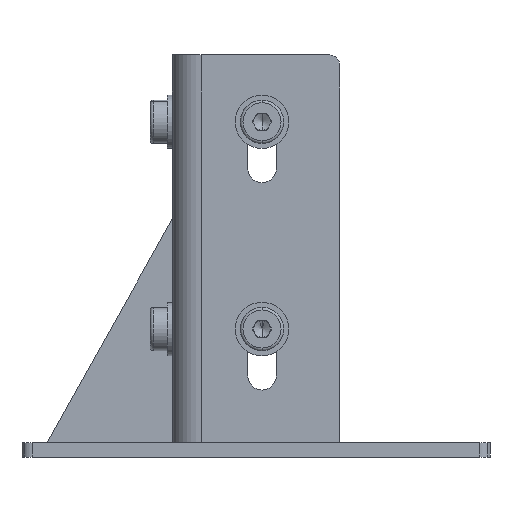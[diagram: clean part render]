
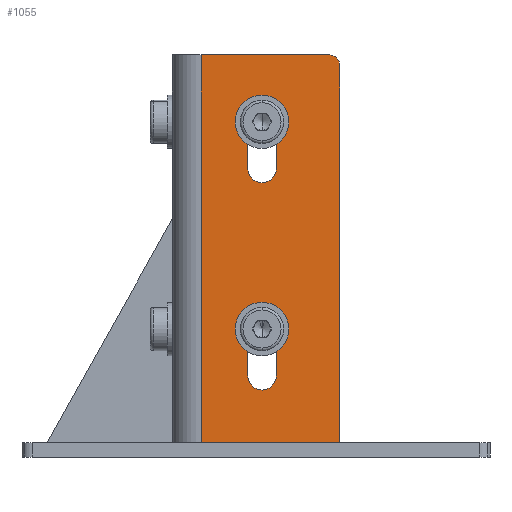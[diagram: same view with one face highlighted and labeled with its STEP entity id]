
A CAD part, left-side view. The second image highlights one B-rep face of the part: STEP entity #1055.
In plain terms, the highlighted planar face has unit normal (-1, 0, 0).
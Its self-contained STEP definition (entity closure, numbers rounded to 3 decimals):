
#308 = EDGE_LOOP ( 'NONE', ( #9153, #6191, #8170, #21987, #2086, #27385 ) ) ;
#385 = LINE ( 'NONE', #17801, #1971 ) ;
#949 = ORIENTED_EDGE ( 'NONE', *, *, #17578, .T. ) ;
#966 = CARTESIAN_POINT ( 'NONE',  ( 589.484, 846.109, 1260.658 ) ) ;
#1055 = ADVANCED_FACE ( 'NONE', ( #3813, #5658, #12045 ), #7954, .F. ) ;
#1060 = VERTEX_POINT ( 'NONE', #24959 ) ;
#1263 = VERTEX_POINT ( 'NONE', #19890 ) ;
#1562 = LINE ( 'NONE', #10212, #20453 ) ;
#1771 = AXIS2_PLACEMENT_3D ( 'NONE', #22392, #21977, #13587 ) ;
#1871 = EDGE_CURVE ( 'NONE', #12042, #18150, #9420, .T. ) ;
#1971 = VECTOR ( 'NONE', #15431, 1000. ) ;
#2086 = ORIENTED_EDGE ( 'NONE', *, *, #9305, .F. ) ;
#2169 = CARTESIAN_POINT ( 'NONE',  ( 589.484, 837.609, 1310.658 ) ) ;
#2970 = VERTEX_POINT ( 'NONE', #27917 ) ;
#3536 = DIRECTION ( 'NONE',  ( 0., 1., 0. ) ) ;
#3606 = LINE ( 'NONE', #8178, #5214 ) ;
#3764 = CARTESIAN_POINT ( 'NONE',  ( 589.484, 846.109, 1317.658 ) ) ;
#3813 = FACE_BOUND ( 'NONE', #10785, .T. ) ;
#3876 = DIRECTION ( 'NONE',  ( 1., 0., 0. ) ) ;
#3995 = EDGE_CURVE ( 'NONE', #1263, #21142, #23802, .T. ) ;
#4119 = VERTEX_POINT ( 'NONE', #9805 ) ;
#4256 = CARTESIAN_POINT ( 'NONE',  ( 589.484, 841.859, 1322.658 ) ) ;
#4599 = VECTOR ( 'NONE', #24718, 1000. ) ;
#4658 = ORIENTED_EDGE ( 'NONE', *, *, #3995, .T. ) ;
#4782 = CARTESIAN_POINT ( 'NONE',  ( 589.484, 846.109, 1336.658 ) ) ;
#4941 = CIRCLE ( 'NONE', #1771, 3. ) ;
#5158 = EDGE_LOOP ( 'NONE', ( #13187, #4658, #15487, #19720 ) ) ;
#5214 = VECTOR ( 'NONE', #17094, 1000. ) ;
#5658 = FACE_BOUND ( 'NONE', #5158, .T. ) ;
#5897 = DIRECTION ( 'NONE',  ( 0., -1., 0. ) ) ;
#5899 = VERTEX_POINT ( 'NONE', #20643 ) ;
#6031 = EDGE_CURVE ( 'NONE', #1060, #17397, #3606, .T. ) ;
#6191 = ORIENTED_EDGE ( 'NONE', *, *, #12634, .F. ) ;
#6731 = AXIS2_PLACEMENT_3D ( 'NONE', #21876, #23837, #17070 ) ;
#6899 = CARTESIAN_POINT ( 'NONE',  ( 589.484, 837.609, 1274.658 ) ) ;
#6957 = CARTESIAN_POINT ( 'NONE',  ( 589.484, 860.059, 1356.658 ) ) ;
#7290 = CARTESIAN_POINT ( 'NONE',  ( 589.484, 841.859, 1336.658 ) ) ;
#7474 = CARTESIAN_POINT ( 'NONE',  ( 589.484, 860.059, 1356.658 ) ) ;
#7954 = PLANE ( 'NONE',  #11771 ) ;
#8163 = CARTESIAN_POINT ( 'NONE',  ( 589.484, 841.859, 1260.658 ) ) ;
#8170 = ORIENTED_EDGE ( 'NONE', *, *, #8801, .T. ) ;
#8178 = CARTESIAN_POINT ( 'NONE',  ( 589.484, 869.786, 1240.658 ) ) ;
#8559 = VERTEX_POINT ( 'NONE', #4782 ) ;
#8801 = EDGE_CURVE ( 'NONE', #15522, #17397, #20348, .T. ) ;
#9153 = ORIENTED_EDGE ( 'NONE', *, *, #17274, .F. ) ;
#9305 = EDGE_CURVE ( 'NONE', #5899, #1060, #1562, .T. ) ;
#9420 = CIRCLE ( 'NONE', #6731, 4.25 ) ;
#9805 = CARTESIAN_POINT ( 'NONE',  ( 589.484, 819.538, 1355.779 ) ) ;
#9935 = AXIS2_PLACEMENT_3D ( 'NONE', #8163, #3876, #25152 ) ;
#10212 = CARTESIAN_POINT ( 'NONE',  ( 589.484, 818.659, 1356.658 ) ) ;
#10785 = EDGE_LOOP ( 'NONE', ( #16168, #949, #14729, #25509 ) ) ;
#10857 = VERTEX_POINT ( 'NONE', #25034 ) ;
#10868 = DIRECTION ( 'NONE',  ( 0., -0.707, 0.707 ) ) ;
#11771 = AXIS2_PLACEMENT_3D ( 'NONE', #14473, #23370, #3536 ) ;
#12042 = VERTEX_POINT ( 'NONE', #18119 ) ;
#12045 = FACE_OUTER_BOUND ( 'NONE', #308, .T. ) ;
#12505 = DIRECTION ( 'NONE',  ( 0., 0., -1. ) ) ;
#12626 = DIRECTION ( 'NONE',  ( 1., 0., 0. ) ) ;
#12634 = EDGE_CURVE ( 'NONE', #15522, #10857, #18391, .T. ) ;
#12652 = LINE ( 'NONE', #2169, #14881 ) ;
#13187 = ORIENTED_EDGE ( 'NONE', *, *, #14402, .T. ) ;
#13587 = DIRECTION ( 'NONE',  ( 0., -0.707, 0.707 ) ) ;
#14141 = CARTESIAN_POINT ( 'NONE',  ( 589.484, 837.609, 1279.658 ) ) ;
#14402 = EDGE_CURVE ( 'NONE', #17013, #1263, #12652, .T. ) ;
#14473 = CARTESIAN_POINT ( 'NONE',  ( 589.484, 844.223, 1298.658 ) ) ;
#14729 = ORIENTED_EDGE ( 'NONE', *, *, #26489, .T. ) ;
#14780 = DIRECTION ( 'NONE',  ( 0., 0., -1. ) ) ;
#14881 = VECTOR ( 'NONE', #12505, 1000. ) ;
#14943 = AXIS2_PLACEMENT_3D ( 'NONE', #7290, #24444, #18352 ) ;
#15250 = VECTOR ( 'NONE', #22781, 1000. ) ;
#15431 = DIRECTION ( 'NONE',  ( 0., 0., 1. ) ) ;
#15487 = ORIENTED_EDGE ( 'NONE', *, *, #17328, .T. ) ;
#15522 = VERTEX_POINT ( 'NONE', #6957 ) ;
#15532 = CARTESIAN_POINT ( 'NONE',  ( 589.484, 860.059, 1298.658 ) ) ;
#16168 = ORIENTED_EDGE ( 'NONE', *, *, #22471, .T. ) ;
#16688 = CIRCLE ( 'NONE', #21200, 3. ) ;
#17013 = VERTEX_POINT ( 'NONE', #19289 ) ;
#17070 = DIRECTION ( 'NONE',  ( 0., -1., 0. ) ) ;
#17094 = DIRECTION ( 'NONE',  ( 0., 1., 0. ) ) ;
#17274 = EDGE_CURVE ( 'NONE', #10857, #4119, #16688, .T. ) ;
#17328 = EDGE_CURVE ( 'NONE', #21142, #8559, #23193, .T. ) ;
#17397 = VERTEX_POINT ( 'NONE', #23330 ) ;
#17526 = EDGE_CURVE ( 'NONE', #8559, #17013, #23949, .T. ) ;
#17578 = EDGE_CURVE ( 'NONE', #2970, #23335, #18552, .T. ) ;
#17691 = DIRECTION ( 'NONE',  ( 1., 0., 0. ) ) ;
#17801 = CARTESIAN_POINT ( 'NONE',  ( 589.484, 846.109, 1286.658 ) ) ;
#18119 = CARTESIAN_POINT ( 'NONE',  ( 589.484, 846.109, 1274.658 ) ) ;
#18150 = VERTEX_POINT ( 'NONE', #6899 ) ;
#18352 = DIRECTION ( 'NONE',  ( 0., -1., 0. ) ) ;
#18391 = LINE ( 'NONE', #7474, #27740 ) ;
#18552 = CIRCLE ( 'NONE', #9935, 4.25 ) ;
#19289 = CARTESIAN_POINT ( 'NONE',  ( 589.484, 837.609, 1336.658 ) ) ;
#19312 = AXIS2_PLACEMENT_3D ( 'NONE', #4256, #12626, #27730 ) ;
#19720 = ORIENTED_EDGE ( 'NONE', *, *, #17526, .T. ) ;
#19890 = CARTESIAN_POINT ( 'NONE',  ( 589.484, 837.609, 1322.658 ) ) ;
#20348 = LINE ( 'NONE', #15532, #4599 ) ;
#20453 = VECTOR ( 'NONE', #14780, 1000. ) ;
#20643 = CARTESIAN_POINT ( 'NONE',  ( 589.484, 818.659, 1353.658 ) ) ;
#21142 = VERTEX_POINT ( 'NONE', #24434 ) ;
#21200 = AXIS2_PLACEMENT_3D ( 'NONE', #21817, #17691, #10868 ) ;
#21817 = CARTESIAN_POINT ( 'NONE',  ( 589.484, 821.659, 1353.658 ) ) ;
#21876 = CARTESIAN_POINT ( 'NONE',  ( 589.484, 841.859, 1274.658 ) ) ;
#21977 = DIRECTION ( 'NONE',  ( 1., 0., 0. ) ) ;
#21987 = ORIENTED_EDGE ( 'NONE', *, *, #6031, .F. ) ;
#22392 = CARTESIAN_POINT ( 'NONE',  ( 589.484, 821.659, 1353.658 ) ) ;
#22471 = EDGE_CURVE ( 'NONE', #18150, #2970, #27011, .T. ) ;
#22781 = DIRECTION ( 'NONE',  ( 0., 0., -1. ) ) ;
#23193 = LINE ( 'NONE', #3764, #27977 ) ;
#23330 = CARTESIAN_POINT ( 'NONE',  ( 589.484, 860.059, 1240.658 ) ) ;
#23335 = VERTEX_POINT ( 'NONE', #966 ) ;
#23370 = DIRECTION ( 'NONE',  ( 1., 0., 0. ) ) ;
#23802 = CIRCLE ( 'NONE', #19312, 4.25 ) ;
#23837 = DIRECTION ( 'NONE',  ( 1., 0., 0. ) ) ;
#23949 = CIRCLE ( 'NONE', #14943, 4.25 ) ;
#24341 = EDGE_CURVE ( 'NONE', #4119, #5899, #4941, .T. ) ;
#24434 = CARTESIAN_POINT ( 'NONE',  ( 589.484, 846.109, 1322.658 ) ) ;
#24444 = DIRECTION ( 'NONE',  ( 1., 0., 0. ) ) ;
#24718 = DIRECTION ( 'NONE',  ( 0., 0., -1. ) ) ;
#24959 = CARTESIAN_POINT ( 'NONE',  ( 589.484, 818.659, 1240.658 ) ) ;
#25034 = CARTESIAN_POINT ( 'NONE',  ( 589.484, 821.659, 1356.658 ) ) ;
#25152 = DIRECTION ( 'NONE',  ( 0., 1., 0. ) ) ;
#25456 = DIRECTION ( 'NONE',  ( 0., 0., 1. ) ) ;
#25509 = ORIENTED_EDGE ( 'NONE', *, *, #1871, .T. ) ;
#26489 = EDGE_CURVE ( 'NONE', #23335, #12042, #385, .T. ) ;
#27011 = LINE ( 'NONE', #14141, #15250 ) ;
#27385 = ORIENTED_EDGE ( 'NONE', *, *, #24341, .F. ) ;
#27730 = DIRECTION ( 'NONE',  ( 0., 1., 0. ) ) ;
#27740 = VECTOR ( 'NONE', #5897, 1000. ) ;
#27917 = CARTESIAN_POINT ( 'NONE',  ( 589.484, 837.609, 1260.658 ) ) ;
#27977 = VECTOR ( 'NONE', #25456, 1000. ) ;
